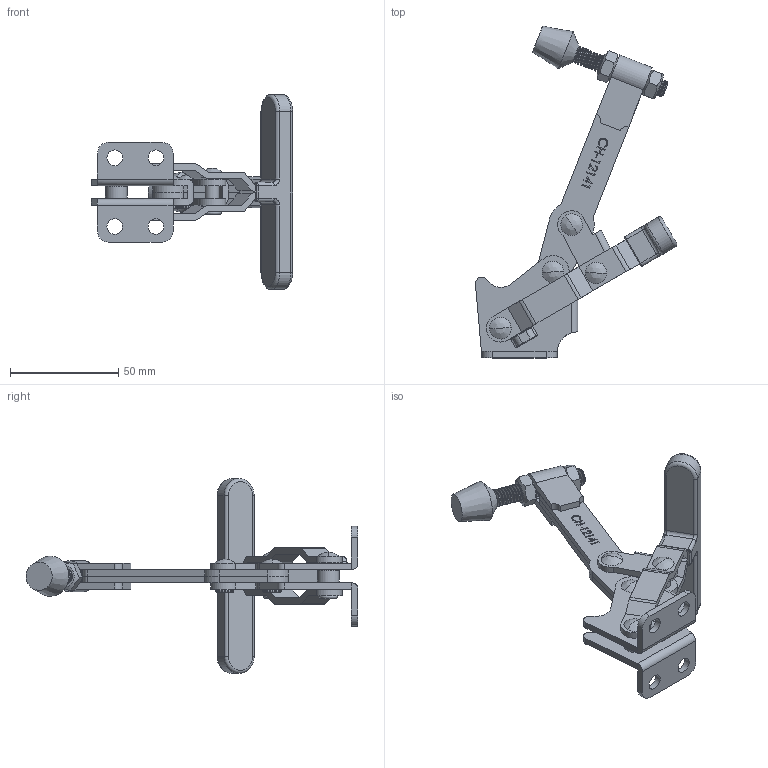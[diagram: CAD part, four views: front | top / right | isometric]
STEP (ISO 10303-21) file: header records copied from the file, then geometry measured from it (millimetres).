
FILE_DESCRIPTION(/* description */ ('STEP AP203'),/* implementation_level */ '2;1');
FILE_NAME(/* name */ 'E:\SERWER_ZAPAS\MODELE brakujace\brakujące stepy_08012019\CH-12141\CH-12141_OTWARTY.stp',/* time_stamp */ '2019-01-31T15:17:44+01:00',/* author */ ('Admin'),/* organization */ ('Microsoft'),/* preprocessor_version */ 'ST-DEVELOPER v17.2',/* originating_system */ 'Autodesk Inventor 2019',/* authorisation */ '');
FILE_SCHEMA (('AUTOMOTIVE_DESIGN { 1 0 10303 214 3 1 1 }'));
Products named in the file (10): CH-12141_OTWARTY; CH-12130-01 FLANGED BASE; CH-12130-04 CONNECTING-PLATE; CH-12130-05; CH-12130-06; CH-12130-08; CH-FC-56212 SPINDLE SUPPLIED; CH-FC-56212 Nut; CH-12141-02 SHORT SOLID BAR_Ä¬ÈÏ_°
´¼Ó¹¤_; CH-12148-03 T-HANDLE
Assembly tree (12 placements, depth 2):
  CH-12141_OTWARTY
    CH-12130-01 FLANGED BASE
    CH-12130-04 CONNECTING-PLATE
    CH-12130-05
    CH-12130-08  x2
    CH-12130-06  x2
    CH-FC-56212 Nut  x2
    CH-FC-56212 SPINDLE SUPPLIED
    CH-12141-02 SHORT SOLID BAR_Ä¬ÈÏ_°
´¼Ó¹¤_
    CH-12148-03 T-HANDLE
Bounding box: 92.89 x 153.23 x 90 mm (x, y, z)
Volume: 56782 mm3; surface area: 40390.5 mm2
Topology: 14 solids, 14 shells, 664 faces, 1846 edges, 1237 vertices
Faces by surface type: plane 294, bspline 161, cylinder 159, torus 30, cone 20
Full cylindrical faces by diameter (mm): 1.55 x1, 1.744 x1, 3.9 x2, 6.3 x6, 6.4 x20, 6.8 x1, 7.2 x4, 7.92 x32, 8.4 x2, 10 x1
Entity records: 39590 total; most frequent: CARTESIAN_POINT 23969, ORIENTED_EDGE 3470, DIRECTION 2656, EDGE_CURVE 1735, VERTEX_POINT 1165, LINE 962, VECTOR 962, AXIS2_PLACEMENT_3D 847
